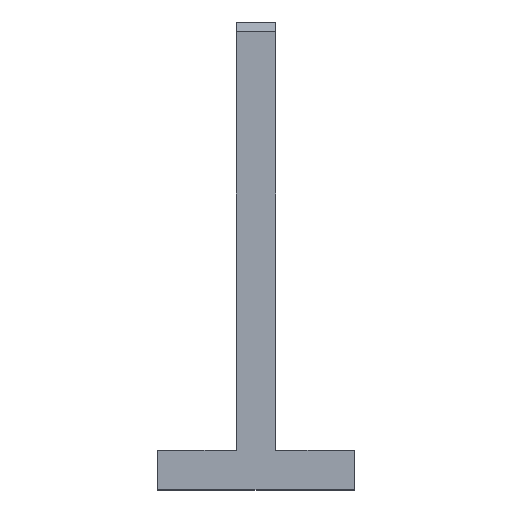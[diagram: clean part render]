
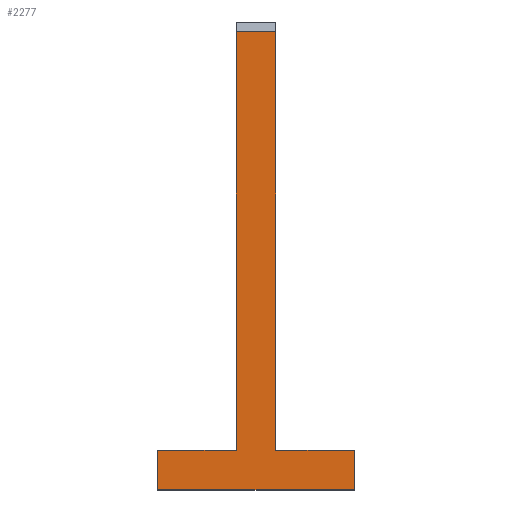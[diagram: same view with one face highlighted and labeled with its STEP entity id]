
A CAD part, top view. The second image highlights one B-rep face of the part: STEP entity #2277.
In plain terms, the highlighted planar face has unit normal (0, 0, 1).
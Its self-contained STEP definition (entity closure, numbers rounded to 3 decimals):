
#41 = CARTESIAN_POINT ( 'NONE',  ( 8., 8., 20. ) ) ;
#63 = LINE ( 'NONE', #583, #958 ) ;
#71 = VERTEX_POINT ( 'NONE', #41 ) ;
#83 = ORIENTED_EDGE ( 'NONE', *, *, #1225, .F. ) ;
#153 = LINE ( 'NONE', #1311, #2091 ) ;
#196 = CARTESIAN_POINT ( 'NONE',  ( 24., 8., 20. ) ) ;
#273 = DIRECTION ( 'NONE',  ( 0., 0., -1. ) ) ;
#306 = LINE ( 'NONE', #1275, #2219 ) ;
#379 = CARTESIAN_POINT ( 'NONE',  ( 0., 0., 20. ) ) ;
#397 = VERTEX_POINT ( 'NONE', #1583 ) ;
#416 = LINE ( 'NONE', #379, #2414 ) ;
#431 = VERTEX_POINT ( 'NONE', #784 ) ;
#469 = VERTEX_POINT ( 'NONE', #196 ) ;
#580 = EDGE_CURVE ( 'NONE', #431, #71, #63, .T. ) ;
#583 = CARTESIAN_POINT ( 'NONE',  ( 8., 95., 20. ) ) ;
#597 = ORIENTED_EDGE ( 'NONE', *, *, #2485, .T. ) ;
#632 = VERTEX_POINT ( 'NONE', #790 ) ;
#673 = LINE ( 'NONE', #1554, #2535 ) ;
#712 = DIRECTION ( 'NONE',  ( -1., 0., 0. ) ) ;
#745 = ORIENTED_EDGE ( 'NONE', *, *, #1056, .T. ) ;
#751 = VERTEX_POINT ( 'NONE', #772 ) ;
#772 = CARTESIAN_POINT ( 'NONE',  ( -16., 8., 20. ) ) ;
#784 = CARTESIAN_POINT ( 'NONE',  ( 8., 93., 20. ) ) ;
#790 = CARTESIAN_POINT ( 'NONE',  ( 0., 8., 20. ) ) ;
#812 = CARTESIAN_POINT ( 'NONE',  ( 0., 95., 20. ) ) ;
#860 = ORIENTED_EDGE ( 'NONE', *, *, #580, .F. ) ;
#923 = VECTOR ( 'NONE', #2170, 1000. ) ;
#951 = DIRECTION ( 'NONE',  ( 0., 1., 0. ) ) ;
#957 = LINE ( 'NONE', #2090, #1300 ) ;
#958 = VECTOR ( 'NONE', #2215, 1000. ) ;
#971 = VERTEX_POINT ( 'NONE', #2503 ) ;
#1056 = EDGE_CURVE ( 'NONE', #431, #2431, #306, .T. ) ;
#1060 = FACE_OUTER_BOUND ( 'NONE', #1750, .T. ) ;
#1064 = ORIENTED_EDGE ( 'NONE', *, *, #2463, .F. ) ;
#1072 = DIRECTION ( 'NONE',  ( 0., -1., 0. ) ) ;
#1073 = ORIENTED_EDGE ( 'NONE', *, *, #2083, .F. ) ;
#1139 = EDGE_CURVE ( 'NONE', #71, #469, #153, .T. ) ;
#1164 = ORIENTED_EDGE ( 'NONE', *, *, #1139, .F. ) ;
#1225 = EDGE_CURVE ( 'NONE', #971, #751, #673, .T. ) ;
#1275 = CARTESIAN_POINT ( 'NONE',  ( 0., 93., 20. ) ) ;
#1300 = VECTOR ( 'NONE', #1072, 1000. ) ;
#1311 = CARTESIAN_POINT ( 'NONE',  ( 0., 8., 20. ) ) ;
#1327 = DIRECTION ( 'NONE',  ( 1., 0., 0. ) ) ;
#1338 = CARTESIAN_POINT ( 'NONE',  ( 0., 93., 20. ) ) ;
#1355 = CARTESIAN_POINT ( 'NONE',  ( -16., 8., 20. ) ) ;
#1383 = AXIS2_PLACEMENT_3D ( 'NONE', #1664, #273, #1687 ) ;
#1384 = LINE ( 'NONE', #1355, #923 ) ;
#1447 = VECTOR ( 'NONE', #1817, 1000. ) ;
#1508 = LINE ( 'NONE', #812, #1447 ) ;
#1554 = CARTESIAN_POINT ( 'NONE',  ( -16., 0., 20. ) ) ;
#1583 = CARTESIAN_POINT ( 'NONE',  ( 24., 0., 20. ) ) ;
#1664 = CARTESIAN_POINT ( 'NONE',  ( 0., 0., 20. ) ) ;
#1687 = DIRECTION ( 'NONE',  ( -1., 0., 0. ) ) ;
#1750 = EDGE_LOOP ( 'NONE', ( #860, #745, #2147, #1064, #83, #597, #1073, #1164 ) ) ;
#1817 = DIRECTION ( 'NONE',  ( 0., -1., 0. ) ) ;
#1894 = PLANE ( 'NONE',  #1383 ) ;
#1915 = EDGE_CURVE ( 'NONE', #2431, #632, #1508, .T. ) ;
#2083 = EDGE_CURVE ( 'NONE', #469, #397, #957, .T. ) ;
#2090 = CARTESIAN_POINT ( 'NONE',  ( 24., 8., 20. ) ) ;
#2091 = VECTOR ( 'NONE', #1327, 1000. ) ;
#2147 = ORIENTED_EDGE ( 'NONE', *, *, #1915, .T. ) ;
#2163 = DIRECTION ( 'NONE',  ( 1., 0., 0. ) ) ;
#2170 = DIRECTION ( 'NONE',  ( 1., 0., 0. ) ) ;
#2215 = DIRECTION ( 'NONE',  ( 0., -1., 0. ) ) ;
#2219 = VECTOR ( 'NONE', #712, 1000. ) ;
#2277 = ADVANCED_FACE ( 'NONE', ( #1060 ), #1894, .F. ) ;
#2414 = VECTOR ( 'NONE', #2163, 1000. ) ;
#2431 = VERTEX_POINT ( 'NONE', #1338 ) ;
#2463 = EDGE_CURVE ( 'NONE', #751, #632, #1384, .T. ) ;
#2485 = EDGE_CURVE ( 'NONE', #971, #397, #416, .T. ) ;
#2503 = CARTESIAN_POINT ( 'NONE',  ( -16., 0., 20. ) ) ;
#2535 = VECTOR ( 'NONE', #951, 1000. ) ;
